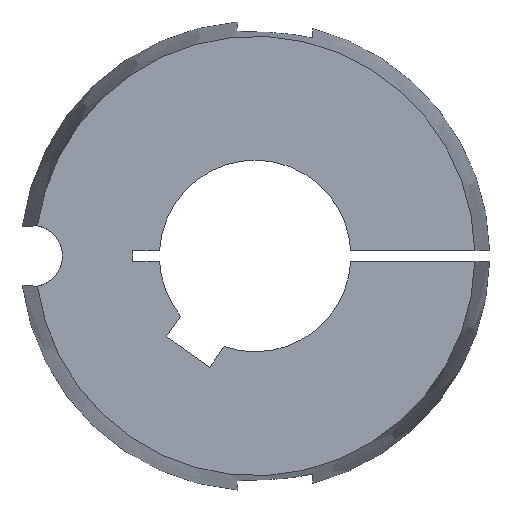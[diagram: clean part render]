
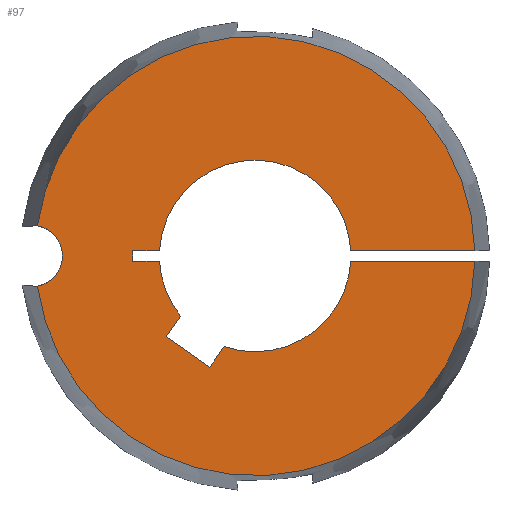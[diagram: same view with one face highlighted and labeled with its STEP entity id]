
A CAD part, left-side view. The second image highlights one B-rep face of the part: STEP entity #97.
In plain terms, the highlighted planar face has unit normal (-1, 0, 0).
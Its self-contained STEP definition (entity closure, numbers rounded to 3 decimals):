
#97 = ADVANCED_FACE( '', ( #148 ), #149, .T. );
#148 = FACE_OUTER_BOUND( '', #204, .T. );
#149 = PLANE( '', #205 );
#204 = EDGE_LOOP( '', ( #398, #399, #400, #401, #402, #403, #404, #405, #406, #407, #408, #409, #410, #411, #412, #413 ) );
#205 = AXIS2_PLACEMENT_3D( '', #414, #415, #416 );
#398 = ORIENTED_EDGE( '', *, *, #495, .T. );
#399 = ORIENTED_EDGE( '', *, *, #459, .T. );
#400 = ORIENTED_EDGE( '', *, *, #484, .T. );
#401 = ORIENTED_EDGE( '', *, *, #518, .T. );
#402 = ORIENTED_EDGE( '', *, *, #520, .T. );
#403 = ORIENTED_EDGE( '', *, *, #521, .T. );
#404 = ORIENTED_EDGE( '', *, *, #522, .T. );
#405 = ORIENTED_EDGE( '', *, *, #523, .T. );
#406 = ORIENTED_EDGE( '', *, *, #515, .T. );
#407 = ORIENTED_EDGE( '', *, *, #510, .T. );
#408 = ORIENTED_EDGE( '', *, *, #511, .T. );
#409 = ORIENTED_EDGE( '', *, *, #514, .T. );
#410 = ORIENTED_EDGE( '', *, *, #524, .T. );
#411 = ORIENTED_EDGE( '', *, *, #455, .T. );
#412 = ORIENTED_EDGE( '', *, *, #519, .T. );
#413 = ORIENTED_EDGE( '', *, *, #492, .T. );
#414 = CARTESIAN_POINT( '', ( -31.8, 16.388, 0. ) );
#415 = DIRECTION( '', ( -1., 0., 0. ) );
#416 = DIRECTION( '', ( 0., 1., 0. ) );
#455 = EDGE_CURVE( '', #529, #533, #535, .T. );
#459 = EDGE_CURVE( '', #537, #541, #543, .T. );
#484 = EDGE_CURVE( '', #541, #584, #586, .T. );
#492 = EDGE_CURVE( '', #598, #596, #599, .T. );
#495 = EDGE_CURVE( '', #596, #537, #603, .T. );
#510 = EDGE_CURVE( '', #625, #627, #629, .T. );
#511 = EDGE_CURVE( '', #627, #630, #631, .T. );
#514 = EDGE_CURVE( '', #630, #633, #635, .T. );
#515 = EDGE_CURVE( '', #636, #625, #637, .T. );
#518 = EDGE_CURVE( '', #584, #639, #641, .T. );
#519 = EDGE_CURVE( '', #533, #598, #642, .T. );
#520 = EDGE_CURVE( '', #639, #643, #644, .T. );
#521 = EDGE_CURVE( '', #643, #645, #646, .T. );
#522 = EDGE_CURVE( '', #645, #647, #648, .T. );
#523 = EDGE_CURVE( '', #647, #636, #649, .T. );
#524 = EDGE_CURVE( '', #633, #529, #650, .T. );
#529 = VERTEX_POINT( '', #655 );
#533 = VERTEX_POINT( '', #660 );
#535 = CIRCLE( '', #663, 14.288 );
#537 = VERTEX_POINT( '', #665 );
#541 = VERTEX_POINT( '', #670 );
#543 = CIRCLE( '', #681, 4.6 );
#584 = VERTEX_POINT( '', #864 );
#586 = CIRCLE( '', #875, 32.776 );
#596 = VERTEX_POINT( '', #927 );
#598 = VERTEX_POINT( '', #938 );
#599 = CIRCLE( '', #939, 32.776 );
#603 = CIRCLE( '', #952, 4.6 );
#625 = VERTEX_POINT( '', #982 );
#627 = VERTEX_POINT( '', #985 );
#629 = LINE( '', #988, #989 );
#630 = VERTEX_POINT( '', #990 );
#631 = LINE( '', #991, #992 );
#633 = VERTEX_POINT( '', #995 );
#635 = LINE( '', #998, #999 );
#636 = VERTEX_POINT( '', #1000 );
#637 = CIRCLE( '', #1001, 14.288 );
#639 = VERTEX_POINT( '', #1004 );
#641 = LINE( '', #1007, #1008 );
#642 = LINE( '', #1009, #1010 );
#643 = VERTEX_POINT( '', #1011 );
#644 = CIRCLE( '', #1012, 14.288 );
#645 = VERTEX_POINT( '', #1013 );
#646 = LINE( '', #1014, #1015 );
#647 = VERTEX_POINT( '', #1016 );
#648 = LINE( '', #1017, #1018 );
#649 = LINE( '', #1019, #1020 );
#650 = CIRCLE( '', #1021, 14.288 );
#655 = CARTESIAN_POINT( '', ( -31.8, -11.123, 8.967 ) );
#660 = CARTESIAN_POINT( '', ( -31.8, -14.268, 0.75 ) );
#663 = AXIS2_PLACEMENT_3D( '', #1033, #1034, #1035 );
#665 = CARTESIAN_POINT( '', ( -31.8, 28.74, 0. ) );
#670 = CARTESIAN_POINT( '', ( -31.8, 32.464, -4.516 ) );
#681 = AXIS2_PLACEMENT_3D( '', #1040, #1041, #1042 );
#864 = CARTESIAN_POINT( '', ( -31.8, -32.768, -0.75 ) );
#875 = AXIS2_PLACEMENT_3D( '', #1076, #1077, #1078 );
#927 = CARTESIAN_POINT( '', ( -31.8, 32.464, 4.516 ) );
#938 = CARTESIAN_POINT( '', ( -31.8, -32.768, 0.75 ) );
#939 = AXIS2_PLACEMENT_3D( '', #1091, #1092, #1093 );
#952 = AXIS2_PLACEMENT_3D( '', #1097, #1098, #1099 );
#982 = CARTESIAN_POINT( '', ( -31.8, 14.268, -0.75 ) );
#985 = CARTESIAN_POINT( '', ( -31.8, 18.288, -0.75 ) );
#988 = CARTESIAN_POINT( '', ( -31.8, 8.194, -0.75 ) );
#989 = VECTOR( '', #1122, 1. );
#990 = CARTESIAN_POINT( '', ( -31.8, 18.288, 0.75 ) );
#991 = CARTESIAN_POINT( '', ( -31.8, 18.288, -0.375 ) );
#992 = VECTOR( '', #1123, 1. );
#995 = CARTESIAN_POINT( '', ( -31.8, 14.268, 0.75 ) );
#998 = CARTESIAN_POINT( '', ( -31.8, 17.338, 0.75 ) );
#999 = VECTOR( '', #1126, 1. );
#1000 = CARTESIAN_POINT( '', ( -31.8, 11.123, -8.967 ) );
#1001 = AXIS2_PLACEMENT_3D( '', #1127, #1128, #1129 );
#1004 = CARTESIAN_POINT( '', ( -31.8, -14.268, -0.75 ) );
#1007 = CARTESIAN_POINT( '', ( -31.8, -9.306, -0.75 ) );
#1008 = VECTOR( '', #1132, 1. );
#1009 = CARTESIAN_POINT( '', ( -31.8, 8.194, 0.75 ) );
#1010 = VECTOR( '', #1133, 1. );
#1011 = CARTESIAN_POINT( '', ( -31.8, 4.621, -13.519 ) );
#1012 = AXIS2_PLACEMENT_3D( '', #1134, #1135, #1136 );
#1013 = CARTESIAN_POINT( '', ( -31.8, 6.765, -16.581 ) );
#1014 = CARTESIAN_POINT( '', ( -31.8, 3.381, -11.748 ) );
#1015 = VECTOR( '', #1137, 1. );
#1016 = CARTESIAN_POINT( '', ( -31.8, 13.267, -12.028 ) );
#1017 = CARTESIAN_POINT( '', ( -31.8, 13.889, -11.593 ) );
#1018 = VECTOR( '', #1138, 1. );
#1019 = CARTESIAN_POINT( '', ( -31.8, 10.955, -8.726 ) );
#1020 = VECTOR( '', #1139, 1. );
#1021 = AXIS2_PLACEMENT_3D( '', #1140, #1141, #1142 );
#1033 = CARTESIAN_POINT( '', ( -31.8, 0., 0. ) );
#1034 = DIRECTION( '', ( 1., 0., 0. ) );
#1035 = DIRECTION( '', ( 0., 0.779, -0.628 ) );
#1040 = CARTESIAN_POINT( '', ( -31.8, 33.34, 0. ) );
#1041 = DIRECTION( '', ( 1., 0., 0. ) );
#1042 = DIRECTION( '', ( 0., 1., 0. ) );
#1076 = CARTESIAN_POINT( '', ( -31.8, 0., 0. ) );
#1077 = DIRECTION( '', ( -1., 0., 0. ) );
#1078 = DIRECTION( '', ( 0., 1., 0. ) );
#1091 = CARTESIAN_POINT( '', ( -31.8, 0., 0. ) );
#1092 = DIRECTION( '', ( -1., 0., 0. ) );
#1093 = DIRECTION( '', ( 0., 1., 0. ) );
#1097 = CARTESIAN_POINT( '', ( -31.8, 33.34, 0. ) );
#1098 = DIRECTION( '', ( 1., 0., 0. ) );
#1099 = DIRECTION( '', ( 0., 1., 0. ) );
#1122 = DIRECTION( '', ( 0., 1., 0. ) );
#1123 = DIRECTION( '', ( 0., 0., 1. ) );
#1126 = DIRECTION( '', ( 0., -1., 0. ) );
#1127 = CARTESIAN_POINT( '', ( -31.8, 0., 0. ) );
#1128 = DIRECTION( '', ( 1., 0., 0. ) );
#1129 = DIRECTION( '', ( 0., 0.779, -0.628 ) );
#1132 = DIRECTION( '', ( 0., 1., 0. ) );
#1133 = DIRECTION( '', ( 0., -1., 0. ) );
#1134 = CARTESIAN_POINT( '', ( -31.8, 0., 0. ) );
#1135 = DIRECTION( '', ( 1., 0., 0. ) );
#1136 = DIRECTION( '', ( 0., 0.779, -0.628 ) );
#1137 = DIRECTION( '', ( 0., 0.574, -0.819 ) );
#1138 = DIRECTION( '', ( 0., 0.819, 0.574 ) );
#1139 = DIRECTION( '', ( 0., -0.574, 0.819 ) );
#1140 = CARTESIAN_POINT( '', ( -31.8, 0., 0. ) );
#1141 = DIRECTION( '', ( 1., 0., 0. ) );
#1142 = DIRECTION( '', ( 0., 0.779, -0.628 ) );
